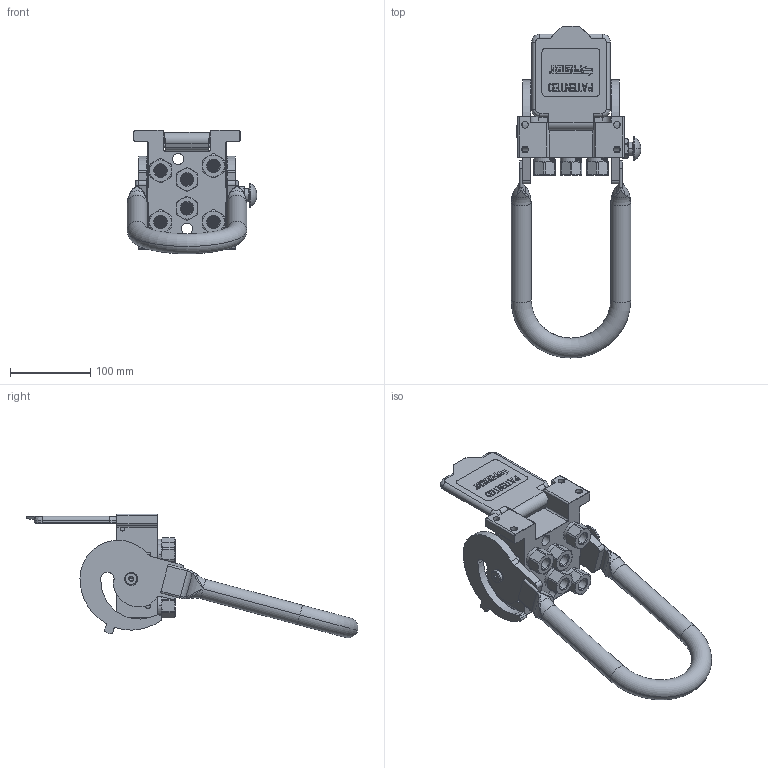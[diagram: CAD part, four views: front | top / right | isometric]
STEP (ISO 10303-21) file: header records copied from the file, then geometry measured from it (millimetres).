
FILE_DESCRIPTION((''),'2;1');
FILE_NAME('2P5066-6-38G_F','2011-11-03T',('mchiodi'),(''),'PRO/ENGINEER BY PARAMETRIC TECHNOLOGY CORPORATION, 2011180','PRO/ENGINEER BY PARAMETRIC TECHNOLOGY CORPORATION, 2011180','');
FILE_SCHEMA(('CONFIG_CONTROL_DESIGN'));
Length unit declared in the file: millimetre
Products named in the file (1): 2P5066-6-38G_F
Bounding box: 162.1 x 414.67 x 154.35 mm (x, y, z)
Surface area: 242831.7 mm2 (no closed solid volume)
Topology: 0 solids, 186 shells, 1597 faces, 7401 edges, 5953 vertices
Faces by surface type: cylinder 551, plane 506, cone 290, torus 201, bspline 45, sphere 4
Entity records: 78455 total; most frequent: CARTESIAN_POINT 19982, DIRECTION 12128, ORIENTED_EDGE 10468, EDGE_CURVE 7395, VERTEX_POINT 5953, VECTOR 4214, LINE 4214, AXIS2_PLACEMENT_3D 3957
